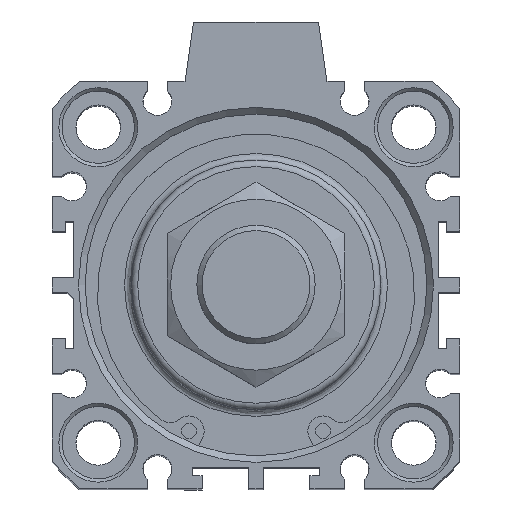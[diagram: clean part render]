
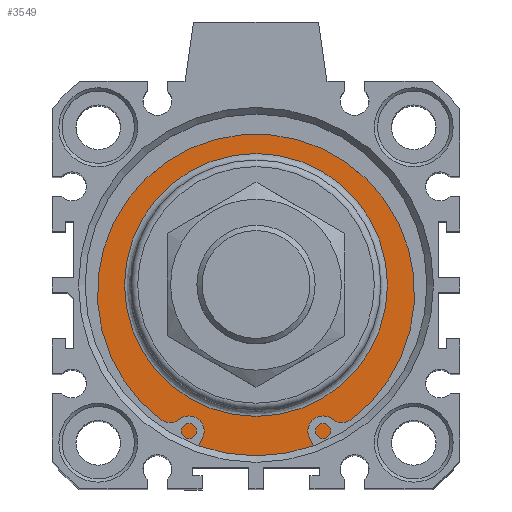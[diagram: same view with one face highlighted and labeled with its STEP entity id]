
A CAD part, top view. The second image highlights one B-rep face of the part: STEP entity #3549.
In plain terms, the highlighted planar face has unit normal (0, 0, 1).
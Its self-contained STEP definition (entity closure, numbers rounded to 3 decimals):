
#3498=CARTESIAN_POINT('',(-0.12,20.837,109.3));
#3499=VERTEX_POINT('',#3498);
#3500=CARTESIAN_POINT('',(-0.12,0.837,109.3));
#3501=DIRECTION('',(0.0,0.0,1.0));
#3502=DIRECTION('',(0.0,-1.0,0.0));
#3503=AXIS2_PLACEMENT_3D('',#3500,#3501,#3502);
#3504=CIRCLE('',#3503,20.);
#3505=EDGE_CURVE('',#3499,#3499,#3504,.T.);
#3530=CARTESIAN_POINT('',(-0.12,23.337,109.3));
#3531=DIRECTION('',(0.0,0.0,1.0));
#3532=DIRECTION('',(1.0,0.0,0.0));
#3533=AXIS2_PLACEMENT_3D('',#3530,#3531,#3532);
#3534=PLANE('',#3533);
#3535=CARTESIAN_POINT('',(-0.12,26.837,109.3));
#3536=VERTEX_POINT('',#3535);
#3537=CARTESIAN_POINT('',(-0.12,0.837,109.3));
#3538=DIRECTION('',(0.0,0.0,-1.0));
#3539=DIRECTION('',(0.0,1.0,0.0));
#3540=AXIS2_PLACEMENT_3D('',#3537,#3538,#3539);
#3541=CIRCLE('',#3540,26.);
#3542=EDGE_CURVE('',#3536,#3536,#3541,.T.);
#3543=ORIENTED_EDGE('',*,*,#3542,.F.);
#3544=EDGE_LOOP('',(#3543));
#3545=FACE_OUTER_BOUND('',#3544,.T.);
#3546=ORIENTED_EDGE('',*,*,#3505,.F.);
#3547=EDGE_LOOP('',(#3546));
#3548=FACE_BOUND('',#3547,.T.);
#3549=ADVANCED_FACE('',(#3545,#3548),#3534,.T.);
